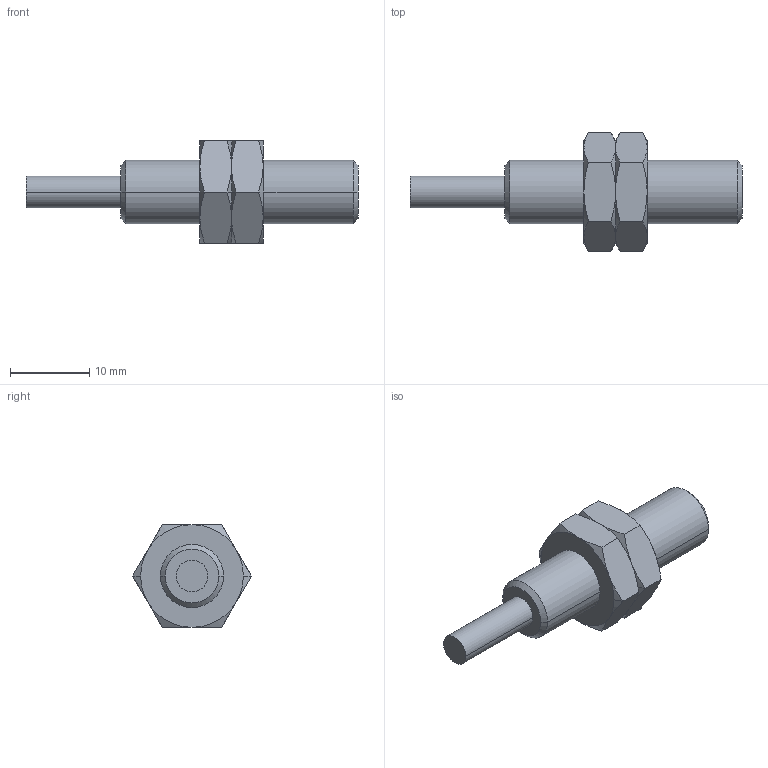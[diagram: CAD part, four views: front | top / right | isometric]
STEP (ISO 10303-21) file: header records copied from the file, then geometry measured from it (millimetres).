
FILE_DESCRIPTION( ( '' ), '1' );
FILE_NAME( '//partserver001.servicenet/client_exchange/iodir/jobs/output/wkb10615286_no0/STEP/ne5001_2_03.stp', '2008-05-16T08:53:09', ( '' ), ( '' ), ' ', ' ', ' ' );
FILE_SCHEMA( ( 'CONFIG_CONTROL_DESIGN' ) );
Length unit declared in the file: millimetre
Products named in the file (3): 1; 2; 3
Bounding box: 42 x 15.01 x 13 mm (x, y, z)
Volume: 2497.1 mm3; surface area: 1902 mm2
Topology: 3 solids, 3 shells, 71 faces, 148 edges, 84 vertices
Faces by surface type: cone 44, plane 19, cylinder 8
Entity records: 1942 total; most frequent: CARTESIAN_POINT 402, DIRECTION 308, ORIENTED_EDGE 296, EDGE_CURVE 148, AXIS2_PLACEMENT_3D 134, VERTEX_POINT 84, EDGE_LOOP 76, ADVANCED_FACE 71
